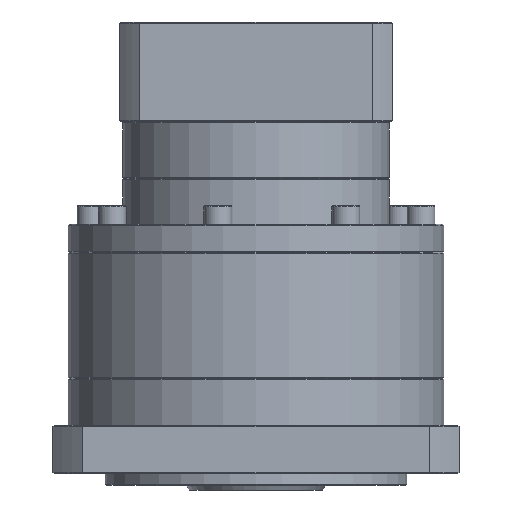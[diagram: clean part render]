
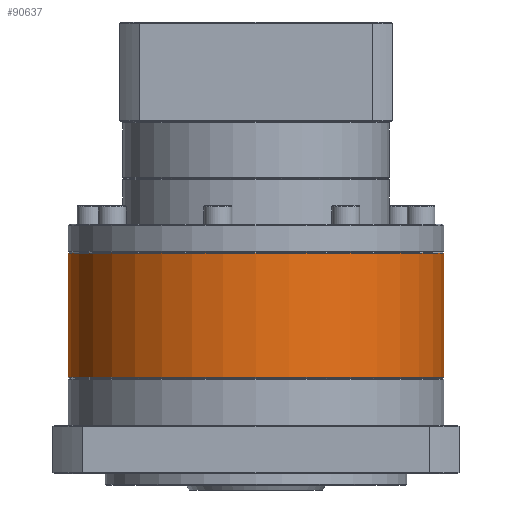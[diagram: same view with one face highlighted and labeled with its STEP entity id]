
A CAD part, front view. The second image highlights one B-rep face of the part: STEP entity #90637.
In plain terms, the highlighted cylindrical face has radius 81 mm (diameter 162 mm), a partial arc.
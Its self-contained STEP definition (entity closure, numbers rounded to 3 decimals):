
#1275 = EDGE_CURVE ( 'NONE', #22873, #3078, #97037, .T. ) ;
#1355 = ORIENTED_EDGE ( 'NONE', *, *, #27798, .T. ) ;
#2228 = VECTOR ( 'NONE', #83411, 1000. ) ;
#2474 = DIRECTION ( 'NONE',  ( -1., 0., 0. ) ) ;
#3078 = VERTEX_POINT ( 'NONE', #32029 ) ;
#4116 = LINE ( 'NONE', #99799, #73019 ) ;
#6242 = CARTESIAN_POINT ( 'NONE',  ( -117.886, 57.452, -88.44 ) ) ;
#8785 = AXIS2_PLACEMENT_3D ( 'NONE', #11539, #48778, #2474 ) ;
#9884 = CIRCLE ( 'NONE', #88668, 81. ) ;
#11539 = CARTESIAN_POINT ( 'NONE',  ( -117.886, 57.452, -88.94 ) ) ;
#15776 = CARTESIAN_POINT ( 'NONE',  ( -117.886, 57.452, -88.94 ) ) ;
#22459 = CARTESIAN_POINT ( 'NONE',  ( -117.886, 57.452, -142.44 ) ) ;
#22524 = DIRECTION ( 'NONE',  ( 0., 0., -1. ) ) ;
#22873 = VERTEX_POINT ( 'NONE', #88796 ) ;
#23448 = DIRECTION ( 'NONE',  ( -1., 0., 0. ) ) ;
#23453 = DIRECTION ( 'NONE',  ( 1., 0., 0. ) ) ;
#27798 = EDGE_CURVE ( 'NONE', #3078, #61398, #39235, .T. ) ;
#28095 = ORIENTED_EDGE ( 'NONE', *, *, #1275, .T. ) ;
#28867 = LINE ( 'NONE', #83745, #2228 ) ;
#32029 = CARTESIAN_POINT ( 'NONE',  ( -117.886, -23.548, -88.94 ) ) ;
#37615 = DIRECTION ( 'NONE',  ( 0., 0., -1. ) ) ;
#39235 = CIRCLE ( 'NONE', #91868, 81. ) ;
#40776 = ORIENTED_EDGE ( 'NONE', *, *, #52209, .F. ) ;
#43424 = CARTESIAN_POINT ( 'NONE',  ( -198.886, 57.452, -88.94 ) ) ;
#43951 = VERTEX_POINT ( 'NONE', #46957 ) ;
#46957 = CARTESIAN_POINT ( 'NONE',  ( -36.886, 57.452, -142.44 ) ) ;
#48378 = AXIS2_PLACEMENT_3D ( 'NONE', #6242, #37615, #23448 ) ;
#48778 = DIRECTION ( 'NONE',  ( 0., 0., -1. ) ) ;
#52209 = EDGE_CURVE ( 'NONE', #22873, #43951, #4116, .T. ) ;
#54261 = DIRECTION ( 'NONE',  ( -1., 0., 0. ) ) ;
#57338 = ORIENTED_EDGE ( 'NONE', *, *, #85511, .T. ) ;
#61398 = VERTEX_POINT ( 'NONE', #43424 ) ;
#61406 = EDGE_LOOP ( 'NONE', ( #40776, #28095, #1355, #57338, #89463 ) ) ;
#62266 = DIRECTION ( 'NONE',  ( 0., 0., -1. ) ) ;
#73019 = VECTOR ( 'NONE', #22524, 1000. ) ;
#79714 = CARTESIAN_POINT ( 'NONE',  ( -198.886, 57.452, -142.44 ) ) ;
#83329 = VERTEX_POINT ( 'NONE', #79714 ) ;
#83411 = DIRECTION ( 'NONE',  ( 0., 0., -1. ) ) ;
#83745 = CARTESIAN_POINT ( 'NONE',  ( -198.886, 57.452, -88.44 ) ) ;
#85511 = EDGE_CURVE ( 'NONE', #61398, #83329, #28867, .T. ) ;
#85911 = FACE_OUTER_BOUND ( 'NONE', #61406, .T. ) ;
#86714 = EDGE_CURVE ( 'NONE', #43951, #83329, #9884, .T. ) ;
#88362 = CYLINDRICAL_SURFACE ( 'NONE', #48378, 81. ) ;
#88668 = AXIS2_PLACEMENT_3D ( 'NONE', #22459, #62266, #23453 ) ;
#88796 = CARTESIAN_POINT ( 'NONE',  ( -36.886, 57.452, -88.94 ) ) ;
#89463 = ORIENTED_EDGE ( 'NONE', *, *, #86714, .F. ) ;
#90637 = ADVANCED_FACE ( 'NONE', ( #85911 ), #88362, .T. ) ;
#91868 = AXIS2_PLACEMENT_3D ( 'NONE', #15776, #99803, #54261 ) ;
#97037 = CIRCLE ( 'NONE', #8785, 81. ) ;
#99799 = CARTESIAN_POINT ( 'NONE',  ( -36.886, 57.452, -88.44 ) ) ;
#99803 = DIRECTION ( 'NONE',  ( 0., 0., -1. ) ) ;
